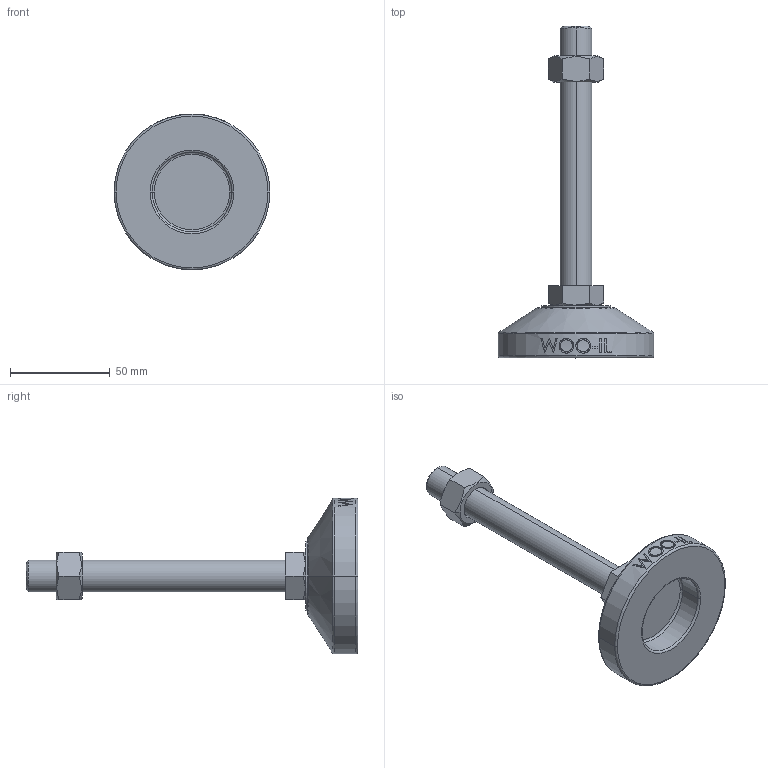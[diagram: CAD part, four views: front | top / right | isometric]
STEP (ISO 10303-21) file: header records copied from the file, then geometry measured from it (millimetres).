
FILE_DESCRIPTION (( 'STEP AP214' ), '1' );
FILE_NAME ('MF78-M16-130.step', '2021-02-03T08:20:33', ( '' ), ( '' ), 'SwSTEP 2.0', 'SolidWorks 2019', '' );
FILE_SCHEMA (( 'AUTOMOTIVE_DESIGN' ));
Length unit declared in the file: millimetre
Products named in the file (2): MF78-M16-130
Bounding box: 78 x 166 x 78 mm (x, y, z)
Volume: 114743.1 mm3; surface area: 25256 mm2
Topology: 3 solids, 3 shells, 106 faces, 243 edges, 154 vertices
Faces by surface type: plane 48, cylinder 18, bspline 16, cone 14, torus 10
Entity records: 4520 total; most frequent: CARTESIAN_POINT 2177, ORIENTED_EDGE 486, DIRECTION 439, EDGE_CURVE 243, AXIS2_PLACEMENT_3D 170, VERTEX_POINT 154, EDGE_LOOP 119, ADVANCED_FACE 106
